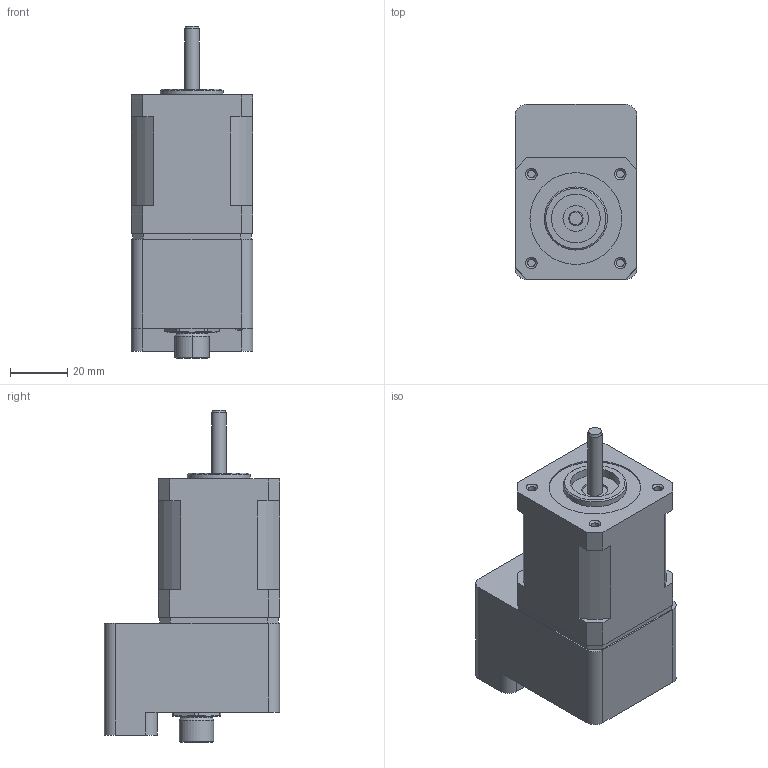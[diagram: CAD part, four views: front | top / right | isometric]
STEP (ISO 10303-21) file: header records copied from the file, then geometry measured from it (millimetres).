
FILE_DESCRIPTION(/* description */ ('Alibre Inc.'),/* implementation_level */ '2;1');
FILE_NAME(/* name */ 'export0',/* time_stamp */ '2018-04-03T11:57:27-04:00',/* author */ (''),/* organization */ (''),/* preprocessor_version */ 'ST-DEVELOPER v14',/* originating_system */ 'Alibre',/* authorisation */ '');
FILE_SCHEMA (('CONFIG_CONTROL_DESIGN'));
Length unit declared in the file: centimetre
Products named in the file (1): ID_1
Bounding box: 42.42 x 61.01 x 115.69 mm (x, y, z)
Volume: 156051.3 mm3; surface area: 32187.2 mm2
Topology: 1 solids, 11 shells, 449 faces, 1035 edges, 674 vertices
Faces by surface type: plane 180, cylinder 154, bspline 48, cone 36, torus 28, sphere 3
Full cylindrical faces by diameter (mm): 1.1 x8, 2.675 x4, 2.87 x3, 2.92 x2, 2.921 x2, 3 x5, 3.048 x3, 3.962 x3, 4.75 x3, 4.763 x3, 5 x1, 5.44 x3, 6.35 x3, 9 x1, 9.728 x1, 10.998 x2, 17 x1, 22 x1, 32 x1
Entity records: 12927 total; most frequent: CARTESIAN_POINT 3405, ORIENTED_EDGE 1880, DIRECTION 1764, EDGE_CURVE 940, AXIS2_PLACEMENT_3D 765, VERTEX_POINT 648, EDGE_LOOP 588, FACE_BOUND 588
